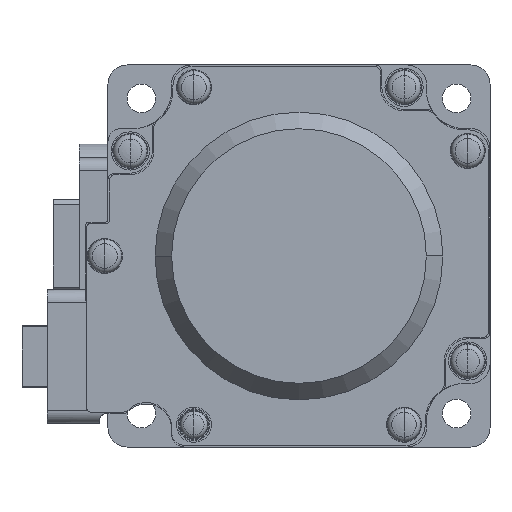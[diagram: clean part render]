
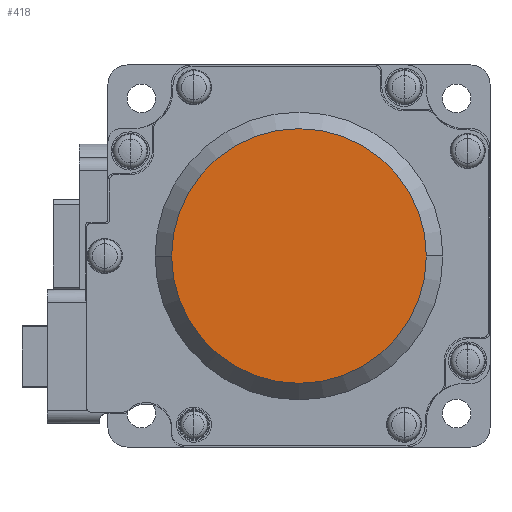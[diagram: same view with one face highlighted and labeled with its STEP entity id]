
A CAD part, left-side view. The second image highlights one B-rep face of the part: STEP entity #418.
In plain terms, the highlighted planar face has unit normal (-1, 0, 0).
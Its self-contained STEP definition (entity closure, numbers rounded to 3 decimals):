
#418 = ADVANCED_FACE( '', ( #1546 ), #1547, .T. );
#1546 = FACE_OUTER_BOUND( '', #3140, .T. );
#1547 = PLANE( '', #3141 );
#3140 = EDGE_LOOP( '', ( #6792, #6793 ) );
#3141 = AXIS2_PLACEMENT_3D( '', #6794, #6795, #6796 );
#6792 = ORIENTED_EDGE( '', *, *, #10375, .T. );
#6793 = ORIENTED_EDGE( '', *, *, #11251, .T. );
#6794 = CARTESIAN_POINT( '', ( -102., 10., 0. ) );
#6795 = DIRECTION( '', ( -1., 0., 0. ) );
#6796 = DIRECTION( '', ( 0., 1., 0. ) );
#10375 = EDGE_CURVE( '', #12473, #12477, #12479, .T. );
#11251 = EDGE_CURVE( '', #12477, #12473, #13958, .T. );
#12473 = VERTEX_POINT( '', #15860 );
#12477 = VERTEX_POINT( '', #15865 );
#12479 = CIRCLE( '', #15868, 20. );
#13958 = CIRCLE( '', #17941, 20. );
#15860 = CARTESIAN_POINT( '', ( -102., 20., 0. ) );
#15865 = CARTESIAN_POINT( '', ( -102., -20., 0. ) );
#15868 = AXIS2_PLACEMENT_3D( '', #20460, #20461, #20462 );
#17941 = AXIS2_PLACEMENT_3D( '', #21976, #21977, #21978 );
#20460 = CARTESIAN_POINT( '', ( -102., 0., 0. ) );
#20461 = DIRECTION( '', ( -1., 0., 0. ) );
#20462 = DIRECTION( '', ( 0., 1., 0. ) );
#21976 = CARTESIAN_POINT( '', ( -102., 0., 0. ) );
#21977 = DIRECTION( '', ( -1., 0., 0. ) );
#21978 = DIRECTION( '', ( 0., 1., 0. ) );
